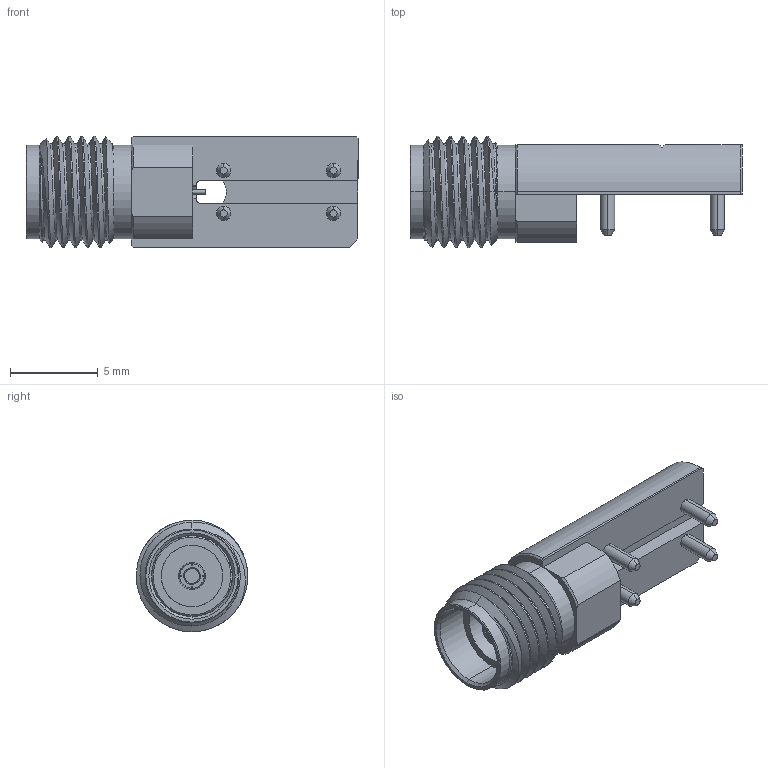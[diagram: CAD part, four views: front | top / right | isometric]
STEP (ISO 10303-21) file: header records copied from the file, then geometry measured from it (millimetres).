
FILE_DESCRIPTION (( 'STEP AP214' ), '1' );
FILE_NAME ('TMB-E5FS-1ST.STEP', '2021-04-08T03:28:47', ( '' ), ( '' ), 'SwSTEP 2.0', 'SolidWorks 2019', '' );
FILE_SCHEMA (( 'AUTOMOTIVE_DESIGN' ));
Length unit declared in the file: millimetre
Products named in the file (1): TMB-E5FS-1ST
Bounding box: 18.9 x 6.34 x 6.35 mm (x, y, z)
Volume: 331.3 mm3; surface area: 635.6 mm2
Topology: 1 solids, 2 shells, 139 faces, 348 edges, 221 vertices
Faces by surface type: cylinder 46, plane 46, cone 28, bspline 19
Full cylindrical faces by diameter (mm): 0.25 x1, 0.79 x1, 0.97 x1, 1.52 x1, 3.5 x1, 4.52 x1, 4.58 x1
Entity records: 5653 total; most frequent: CARTESIAN_POINT 2556, ORIENTED_EDGE 662, DIRECTION 587, EDGE_CURVE 331, AXIS2_PLACEMENT_3D 222, VERTEX_POINT 213, EDGE_LOOP 160, FACE_OUTER_BOUND 146
